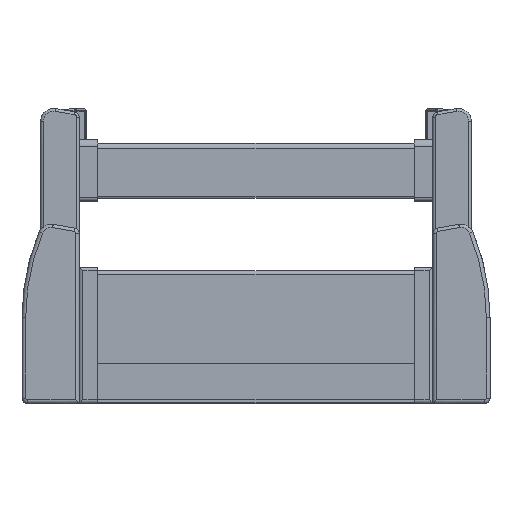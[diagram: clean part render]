
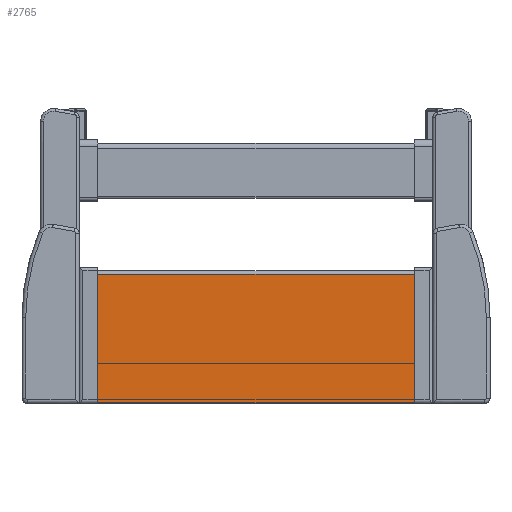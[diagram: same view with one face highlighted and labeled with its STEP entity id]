
A CAD part, top view. The second image highlights one B-rep face of the part: STEP entity #2765.
In plain terms, the highlighted planar face has unit normal (0, 0, 1).
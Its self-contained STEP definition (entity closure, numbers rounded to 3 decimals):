
#2530 = VERTEX_POINT ( 'NONE', #6689 ) ;
#2532 = EDGE_CURVE ( 'NONE', #2533, #2530, #6687, .T. ) ;
#2533 = VERTEX_POINT ( 'NONE', #6682 ) ;
#2667 = ORIENTED_EDGE ( 'NONE', *, *, #2532, .T. ) ;
#2669 = ORIENTED_EDGE ( 'NONE', *, *, #2671, .T. ) ;
#2671 = EDGE_CURVE ( 'NONE', #2530, #2673, #6830, .T. ) ;
#2673 = VERTEX_POINT ( 'NONE', #6826 ) ;
#2685 = ORIENTED_EDGE ( 'NONE', *, *, #2686, .F. ) ;
#2686 = EDGE_CURVE ( 'NONE', #2749, #2673, #6811, .T. ) ;
#2748 = EDGE_CURVE ( 'NONE', #2533, #2749, #6969, .T. ) ;
#2749 = VERTEX_POINT ( 'NONE', #6965 ) ;
#2765 = ADVANCED_FACE ( 'NONE', ( #6910 ), #6909, .F. ) ;
#2768 = EDGE_LOOP ( 'NONE', ( #2770, #2667, #2669, #2685 ) ) ;
#2770 = ORIENTED_EDGE ( 'NONE', *, *, #2748, .F. ) ;
#6682 = CARTESIAN_POINT ( 'NONE',  ( 85.8, -92.5, 1.4 ) ) ;
#6684 = DIRECTION ( 'NONE',  ( 0., 1., 0. ) ) ;
#6685 = VECTOR ( 'NONE', #6684, 1000. ) ;
#6686 = CARTESIAN_POINT ( 'NONE',  ( 85.8, -92.5, 1.4 ) ) ;
#6687 = LINE ( 'NONE', #6686, #6685 ) ;
#6689 = CARTESIAN_POINT ( 'NONE',  ( 85.8, -23., 1.4 ) ) ;
#6808 = DIRECTION ( 'NONE',  ( 0., 1., 0. ) ) ;
#6809 = VECTOR ( 'NONE', #6808, 1000. ) ;
#6810 = CARTESIAN_POINT ( 'NONE',  ( -85.8, -92.5, 1.4 ) ) ;
#6811 = LINE ( 'NONE', #6810, #6809 ) ;
#6826 = CARTESIAN_POINT ( 'NONE',  ( -85.8, -23., 1.4 ) ) ;
#6827 = DIRECTION ( 'NONE',  ( -1., 0., 0. ) ) ;
#6828 = VECTOR ( 'NONE', #6827, 1000. ) ;
#6829 = CARTESIAN_POINT ( 'NONE',  ( 159.556, -23., 1.4 ) ) ;
#6830 = LINE ( 'NONE', #6829, #6828 ) ;
#6904 = DIRECTION ( 'NONE',  ( 0., 1., 0. ) ) ;
#6905 = DIRECTION ( 'NONE',  ( 0., 0., -1. ) ) ;
#6906 = CARTESIAN_POINT ( 'NONE',  ( 159.556, -92.5, 1.4 ) ) ;
#6908 = AXIS2_PLACEMENT_3D ( 'NONE', #6906, #6905, #6904 ) ;
#6909 = PLANE ( 'NONE',  #6908 ) ;
#6910 = FACE_OUTER_BOUND ( 'NONE', #2768, .T. ) ;
#6965 = CARTESIAN_POINT ( 'NONE',  ( -85.8, -92.5, 1.4 ) ) ;
#6966 = DIRECTION ( 'NONE',  ( -1., 0., 0. ) ) ;
#6967 = VECTOR ( 'NONE', #6966, 1000. ) ;
#6968 = CARTESIAN_POINT ( 'NONE',  ( 159.556, -92.5, 1.4 ) ) ;
#6969 = LINE ( 'NONE', #6968, #6967 ) ;
